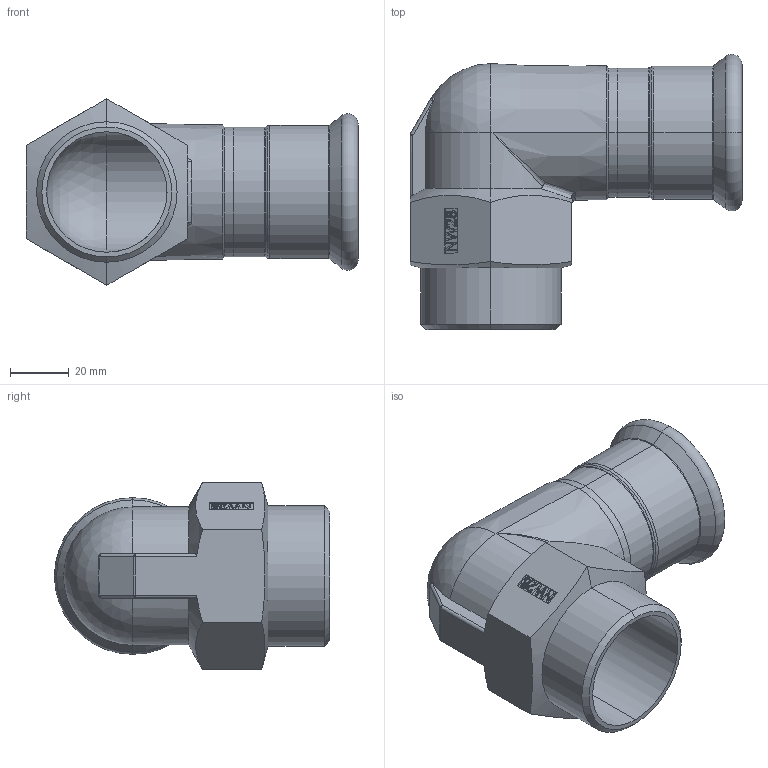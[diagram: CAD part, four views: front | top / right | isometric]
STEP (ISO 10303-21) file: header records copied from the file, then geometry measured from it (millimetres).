
FILE_DESCRIPTION (( 'STEP AP203' ), '1' );
FILE_NAME ('GDA5276.STEP', '2019-01-15T05:37:27', ( '' ), ( '' ), 'SwSTEP 2.0', 'SolidWorks 2015', '' );
FILE_SCHEMA (( 'CONFIG_CONTROL_DESIGN' ));
Length unit declared in the file: millimetre
Products named in the file (3): OD42｡ﾁ1.5; GDA5276; T-ｉ-01-42
Assembly tree (2 placements, depth 2):
  GDA5276
    OD42｡ﾁ1.5
    T-ｉ-01-42
Bounding box: 113 x 93.65 x 63.51 mm (x, y, z)
Volume: 75870.3 mm3; surface area: 45792.5 mm2
Topology: 2 solids, 2 shells, 154 faces, 370 edges, 223 vertices
Faces by surface type: plane 54, cylinder 30, bspline 28, cone 19, torus 17, sphere 6
Entity records: 6515 total; most frequent: CARTESIAN_POINT 2854, ORIENTED_EDGE 728, DIRECTION 643, EDGE_CURVE 364, AXIS2_PLACEMENT_3D 233, VERTEX_POINT 222, VECTOR 177, LINE 177
